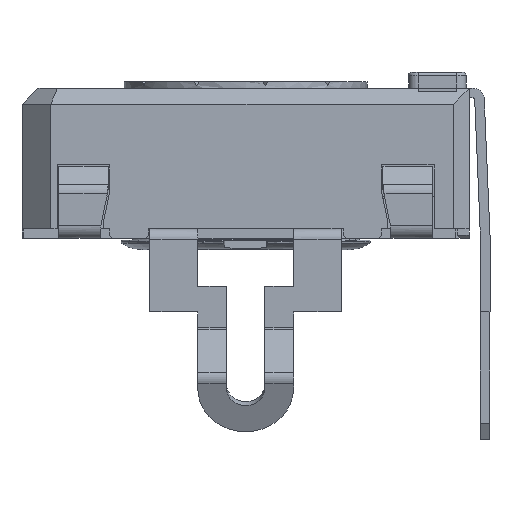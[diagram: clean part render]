
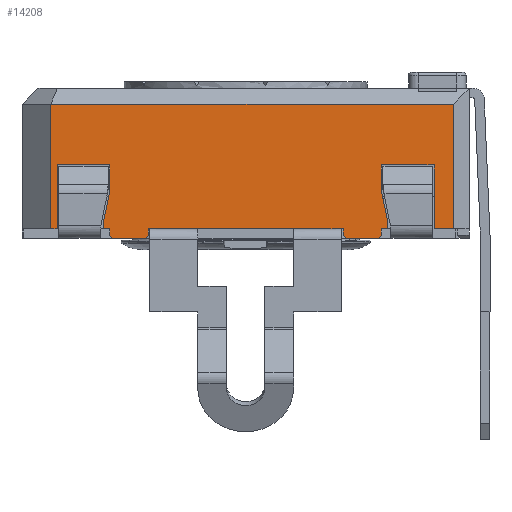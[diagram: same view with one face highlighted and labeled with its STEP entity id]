
A CAD part, left-side view. The second image highlights one B-rep face of the part: STEP entity #14208.
In plain terms, the highlighted planar face has unit normal (-1, 0, 0).
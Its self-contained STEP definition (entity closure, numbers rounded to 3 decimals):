
#1141=FACE_OUTER_BOUND('',#1889,.T.);
#1889=EDGE_LOOP('',(#11419,#11420,#11421,#11422,#11423,#11424,#11425,#11426,
#11427,#11428,#11429,#11430,#11431,#11432,#11433,#11434,#11435,#11436,#11437,
#11438,#11439,#11440,#11441,#11442,#11443,#11444,#11445,#11446));
#2470=LINE('',#20264,#4092);
#2475=LINE('',#20274,#4097);
#2480=LINE('',#20284,#4102);
#2591=LINE('',#20530,#4213);
#3086=LINE('',#21956,#4708);
#3091=LINE('',#21965,#4713);
#3094=LINE('',#21971,#4716);
#3098=LINE('',#21978,#4720);
#3122=LINE('',#22026,#4744);
#3125=LINE('',#22032,#4747);
#3130=LINE('',#22042,#4752);
#3133=LINE('',#22048,#4755);
#3136=LINE('',#22054,#4758);
#3151=LINE('',#22081,#4773);
#3163=LINE('',#22103,#4785);
#3165=LINE('',#22108,#4787);
#3200=LINE('',#22236,#4822);
#3203=LINE('',#22242,#4825);
#3208=LINE('',#22252,#4830);
#3210=LINE('',#22255,#4832);
#3316=LINE('',#22531,#4938);
#3318=LINE('',#22536,#4940);
#3321=LINE('',#22540,#4943);
#3323=LINE('',#22544,#4945);
#3326=LINE('',#22552,#4948);
#3327=LINE('',#22554,#4949);
#3328=LINE('',#22555,#4950);
#3329=LINE('',#22556,#4951);
#4092=VECTOR('',#16252,10.);
#4097=VECTOR('',#16257,10.);
#4102=VECTOR('',#16262,10.);
#4213=VECTOR('',#16471,10.);
#4708=VECTOR('',#17680,10.);
#4713=VECTOR('',#17687,10.);
#4716=VECTOR('',#17692,10.);
#4720=VECTOR('',#17698,10.);
#4744=VECTOR('',#17742,10.);
#4747=VECTOR('',#17747,10.);
#4752=VECTOR('',#17754,10.);
#4755=VECTOR('',#17759,10.);
#4758=VECTOR('',#17764,10.);
#4773=VECTOR('',#17781,10.);
#4785=VECTOR('',#17795,10.);
#4787=VECTOR('',#17799,10.);
#4822=VECTOR('',#17878,10.);
#4825=VECTOR('',#17883,10.);
#4830=VECTOR('',#17890,10.);
#4832=VECTOR('',#17894,10.);
#4938=VECTOR('',#18154,10.);
#4940=VECTOR('',#18158,10.);
#4943=VECTOR('',#18163,10.);
#4945=VECTOR('',#18169,10.);
#4948=VECTOR('',#18180,10.);
#4949=VECTOR('',#18181,10.);
#4950=VECTOR('',#18182,10.);
#4951=VECTOR('',#18183,10.);
#5687=VERTEX_POINT('',#20261);
#5688=VERTEX_POINT('',#20263);
#5692=VERTEX_POINT('',#20271);
#5693=VERTEX_POINT('',#20273);
#5697=VERTEX_POINT('',#20281);
#5698=VERTEX_POINT('',#20283);
#5783=VERTEX_POINT('',#20527);
#5784=VERTEX_POINT('',#20529);
#6201=VERTEX_POINT('',#21953);
#6202=VERTEX_POINT('',#21955);
#6206=VERTEX_POINT('',#21968);
#6209=VERTEX_POINT('',#21976);
#6222=VERTEX_POINT('',#22023);
#6224=VERTEX_POINT('',#22029);
#6228=VERTEX_POINT('',#22039);
#6230=VERTEX_POINT('',#22045);
#6233=VERTEX_POINT('',#22052);
#6244=VERTEX_POINT('',#22079);
#6253=VERTEX_POINT('',#22101);
#6255=VERTEX_POINT('',#22106);
#6279=VERTEX_POINT('',#22239);
#6283=VERTEX_POINT('',#22249);
#6350=VERTEX_POINT('',#22528);
#6351=VERTEX_POINT('',#22530);
#6352=VERTEX_POINT('',#22534);
#6353=VERTEX_POINT('',#22535);
#6354=VERTEX_POINT('',#22551);
#6355=VERTEX_POINT('',#22553);
#7110=EDGE_CURVE('',#5688,#5687,#2470,.T.);
#7115=EDGE_CURVE('',#5693,#5692,#2475,.T.);
#7120=EDGE_CURVE('',#5698,#5697,#2480,.T.);
#7245=EDGE_CURVE('',#5784,#5783,#2591,.T.);
#7894=EDGE_CURVE('',#6202,#6201,#3086,.T.);
#7899=EDGE_CURVE('',#6201,#5698,#3091,.T.);
#7902=EDGE_CURVE('',#5697,#6206,#3094,.T.);
#7906=EDGE_CURVE('',#6209,#6206,#3098,.T.);
#7931=EDGE_CURVE('',#5687,#6222,#3122,.T.);
#7934=EDGE_CURVE('',#6222,#6224,#3125,.T.);
#7939=EDGE_CURVE('',#6224,#6228,#3130,.T.);
#7942=EDGE_CURVE('',#6228,#6230,#3133,.T.);
#7945=EDGE_CURVE('',#6230,#6233,#3136,.T.);
#7960=EDGE_CURVE('',#6233,#6244,#3151,.T.);
#7972=EDGE_CURVE('',#6253,#6244,#3163,.T.);
#7974=EDGE_CURVE('',#6255,#6253,#3165,.T.);
#8021=EDGE_CURVE('',#5784,#6255,#3200,.T.);
#8024=EDGE_CURVE('',#5783,#6279,#3203,.T.);
#8029=EDGE_CURVE('',#6279,#6283,#3208,.T.);
#8031=EDGE_CURVE('',#6283,#6202,#3210,.T.);
#8153=EDGE_CURVE('',#6350,#6351,#3316,.T.);
#8155=EDGE_CURVE('',#6352,#6353,#3318,.T.);
#8158=EDGE_CURVE('',#5688,#6350,#3321,.T.);
#8160=EDGE_CURVE('',#5692,#6353,#3323,.T.);
#8163=EDGE_CURVE('',#6209,#6354,#3326,.T.);
#8164=EDGE_CURVE('',#6355,#6354,#3327,.T.);
#8165=EDGE_CURVE('',#5693,#6355,#3328,.T.);
#8166=EDGE_CURVE('',#6352,#6351,#3329,.T.);
#11419=ORIENTED_EDGE('',*,*,#7899,.T.);
#11420=ORIENTED_EDGE('',*,*,#7120,.T.);
#11421=ORIENTED_EDGE('',*,*,#7902,.T.);
#11422=ORIENTED_EDGE('',*,*,#7906,.F.);
#11423=ORIENTED_EDGE('',*,*,#8163,.T.);
#11424=ORIENTED_EDGE('',*,*,#8164,.F.);
#11425=ORIENTED_EDGE('',*,*,#8165,.F.);
#11426=ORIENTED_EDGE('',*,*,#7115,.T.);
#11427=ORIENTED_EDGE('',*,*,#8160,.T.);
#11428=ORIENTED_EDGE('',*,*,#8155,.F.);
#11429=ORIENTED_EDGE('',*,*,#8166,.T.);
#11430=ORIENTED_EDGE('',*,*,#8153,.F.);
#11431=ORIENTED_EDGE('',*,*,#8158,.F.);
#11432=ORIENTED_EDGE('',*,*,#7110,.T.);
#11433=ORIENTED_EDGE('',*,*,#7931,.T.);
#11434=ORIENTED_EDGE('',*,*,#7934,.T.);
#11435=ORIENTED_EDGE('',*,*,#7939,.T.);
#11436=ORIENTED_EDGE('',*,*,#7942,.T.);
#11437=ORIENTED_EDGE('',*,*,#7945,.T.);
#11438=ORIENTED_EDGE('',*,*,#7960,.T.);
#11439=ORIENTED_EDGE('',*,*,#7972,.F.);
#11440=ORIENTED_EDGE('',*,*,#7974,.F.);
#11441=ORIENTED_EDGE('',*,*,#8021,.F.);
#11442=ORIENTED_EDGE('',*,*,#7245,.T.);
#11443=ORIENTED_EDGE('',*,*,#8024,.T.);
#11444=ORIENTED_EDGE('',*,*,#8029,.T.);
#11445=ORIENTED_EDGE('',*,*,#8031,.T.);
#11446=ORIENTED_EDGE('',*,*,#7894,.T.);
#13271=PLANE('',#15192);
#14208=ADVANCED_FACE('',(#1141),#13271,.T.);
#15192=AXIS2_PLACEMENT_3D('',#22550,#18178,#18179);
#16252=DIRECTION('',(0.,-1.,0.));
#16257=DIRECTION('',(0.,-1.,0.));
#16262=DIRECTION('',(0.,-1.,0.));
#16471=DIRECTION('',(0.,-1.,0.));
#17680=DIRECTION('',(0.,0.208,-0.978));
#17687=DIRECTION('',(0.,0.,-1.));
#17692=DIRECTION('',(0.,0.,-1.));
#17698=DIRECTION('',(0.,0.707,0.707));
#17742=DIRECTION('',(0.,0.,1.));
#17747=DIRECTION('',(0.,0.208,0.978));
#17754=DIRECTION('',(0.,0.,1.));
#17759=DIRECTION('',(0.,-1.,0.));
#17764=DIRECTION('',(0.,0.,-1.));
#17781=DIRECTION('',(0.,-1.,0.));
#17795=DIRECTION('',(0.,0.,-1.));
#17799=DIRECTION('',(0.,-1.,0.));
#17878=DIRECTION('',(0.,0.,1.));
#17883=DIRECTION('',(0.,0.,1.));
#17890=DIRECTION('',(0.,-1.,0.));
#17894=DIRECTION('',(0.,0.,-1.));
#18154=DIRECTION('',(0.,0.707,-0.707));
#18158=DIRECTION('',(0.,0.707,0.707));
#18163=DIRECTION('',(0.,0.,-1.));
#18169=DIRECTION('',(0.,0.,-1.));
#18178=DIRECTION('center_axis',(-1.,0.,0.));
#18179=DIRECTION('ref_axis',(0.,0.,1.));
#18180=DIRECTION('',(0.,-1.,0.));
#18181=DIRECTION('',(0.,0.707,-0.707));
#18182=DIRECTION('',(0.,0.,-1.));
#18183=DIRECTION('',(0.,-1.,0.));
#20261=CARTESIAN_POINT('',(-14.467,-7.348,0.));
#20263=CARTESIAN_POINT('',(-14.467,-7.148,0.));
#20264=CARTESIAN_POINT('',(-14.467,4.102,0.));
#20271=CARTESIAN_POINT('',(-14.467,-5.948,0.));
#20273=CARTESIAN_POINT('',(-14.467,0.152,0.));
#20274=CARTESIAN_POINT('',(-14.467,4.102,0.));
#20281=CARTESIAN_POINT('',(-14.467,1.352,0.));
#20283=CARTESIAN_POINT('',(-14.467,1.552,0.));
#20284=CARTESIAN_POINT('',(-14.467,4.102,0.));
#20527=CARTESIAN_POINT('',(-14.467,3.002,0.));
#20529=CARTESIAN_POINT('',(-14.467,3.202,0.));
#20530=CARTESIAN_POINT('',(-14.467,-2.985,0.));
#21953=CARTESIAN_POINT('',(-14.467,1.552,0.235));
#21955=CARTESIAN_POINT('',(-14.467,1.352,1.176));
#21956=CARTESIAN_POINT('',(-14.467,1.228,1.757));
#21965=CARTESIAN_POINT('',(-14.467,1.552,0.));
#21968=CARTESIAN_POINT('',(-14.467,1.352,-0.2));
#21971=CARTESIAN_POINT('',(-14.467,1.352,0.));
#21976=CARTESIAN_POINT('',(-14.467,1.252,-0.3));
#21978=CARTESIAN_POINT('',(-14.467,-1.436,-2.988));
#22023=CARTESIAN_POINT('',(-14.467,-7.348,0.235));
#22026=CARTESIAN_POINT('',(-14.467,-7.348,0.118));
#22029=CARTESIAN_POINT('',(-14.467,-7.148,1.176));
#22032=CARTESIAN_POINT('',(-14.467,-7.453,-0.254));
#22039=CARTESIAN_POINT('',(-14.467,-7.148,2.));
#22042=CARTESIAN_POINT('',(-14.467,-7.148,0.588));
#22045=CARTESIAN_POINT('',(-14.467,-8.798,2.));
#22048=CARTESIAN_POINT('',(-14.467,-8.523,2.));
#22052=CARTESIAN_POINT('',(-14.467,-8.798,0.));
#22054=CARTESIAN_POINT('',(-14.467,-8.798,0.));
#22079=CARTESIAN_POINT('',(-14.467,-9.398,0.));
#22081=CARTESIAN_POINT('',(-14.467,-9.595,0.));
#22101=CARTESIAN_POINT('',(-14.467,-9.398,3.9));
#22103=CARTESIAN_POINT('',(-14.467,-9.398,0.));
#22106=CARTESIAN_POINT('',(-14.467,3.202,3.9));
#22108=CARTESIAN_POINT('',(-14.467,-6.398,3.9));
#22236=CARTESIAN_POINT('',(-14.467,3.202,0.));
#22239=CARTESIAN_POINT('',(-14.467,3.002,2.));
#22242=CARTESIAN_POINT('',(-14.467,3.002,0.));
#22249=CARTESIAN_POINT('',(-14.467,1.352,2.));
#22252=CARTESIAN_POINT('',(-14.467,-3.448,2.));
#22255=CARTESIAN_POINT('',(-14.467,1.352,1.));
#22528=CARTESIAN_POINT('',(-14.467,-7.148,-0.2));
#22530=CARTESIAN_POINT('',(-14.467,-7.048,-0.3));
#22531=CARTESIAN_POINT('',(-14.467,-7.861,0.513));
#22534=CARTESIAN_POINT('',(-14.467,-6.048,-0.3));
#22535=CARTESIAN_POINT('',(-14.467,-5.948,-0.2));
#22536=CARTESIAN_POINT('',(-14.467,-6.911,-1.163));
#22540=CARTESIAN_POINT('',(-14.467,-7.148,0.));
#22544=CARTESIAN_POINT('',(-14.467,-5.948,0.));
#22550=CARTESIAN_POINT('Origin',(-14.467,-9.898,0.));
#22551=CARTESIAN_POINT('',(-14.467,0.252,-0.3));
#22552=CARTESIAN_POINT('',(-14.467,0.152,-0.3));
#22553=CARTESIAN_POINT('',(-14.467,0.152,-0.2));
#22554=CARTESIAN_POINT('',(-14.467,-2.386,2.338));
#22555=CARTESIAN_POINT('',(-14.467,0.152,0.));
#22556=CARTESIAN_POINT('',(-14.467,-7.148,-0.3));
